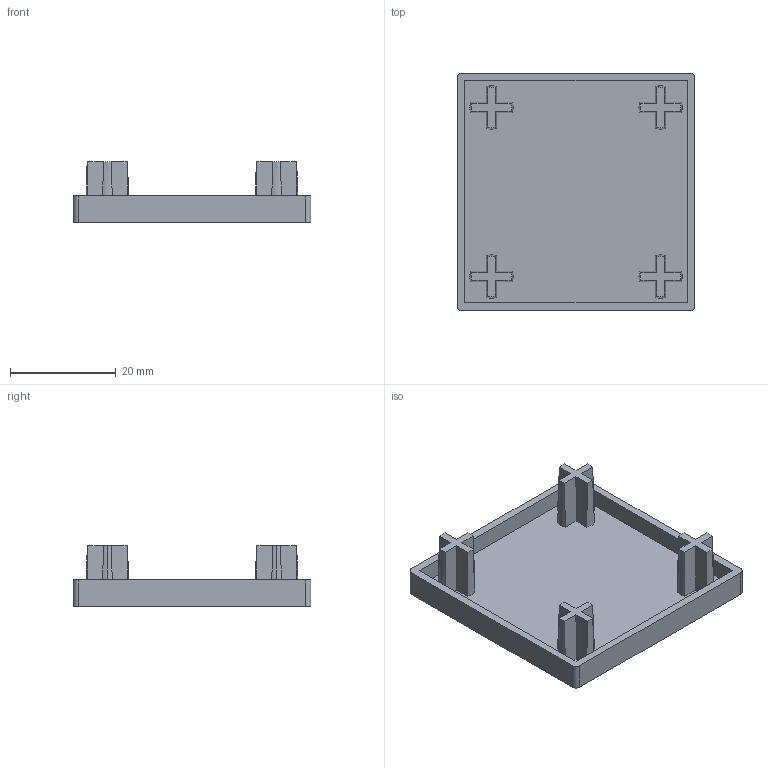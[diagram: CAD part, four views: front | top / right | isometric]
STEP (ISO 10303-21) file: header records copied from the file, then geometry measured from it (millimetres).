
FILE_DESCRIPTION (( 'STEP AP203' ), '1' );
FILE_NAME ('EC4545-8.STEP', '2024-02-19T05:57:37', ( '' ), ( '' ), 'SwSTEP 2.0', 'SolidWorks 2022', '' );
FILE_SCHEMA (( 'CONFIG_CONTROL_DESIGN' ));
Length unit declared in the file: millimetre
Products named in the file (1): EC4545-8
Bounding box: 45 x 45 x 11.5 mm (x, y, z)
Volume: 4916.8 mm3; surface area: 6723.8 mm2
Topology: 1 solids, 1 shells, 71 faces, 192 edges, 128 vertices
Faces by surface type: plane 47, cone 20, cylinder 4
Entity records: 2439 total; most frequent: CARTESIAN_POINT 584, ORIENTED_EDGE 384, DIRECTION 352, EDGE_CURVE 192, VERTEX_POINT 128, AXIS2_PLACEMENT_3D 120, LINE 112, VECTOR 112
